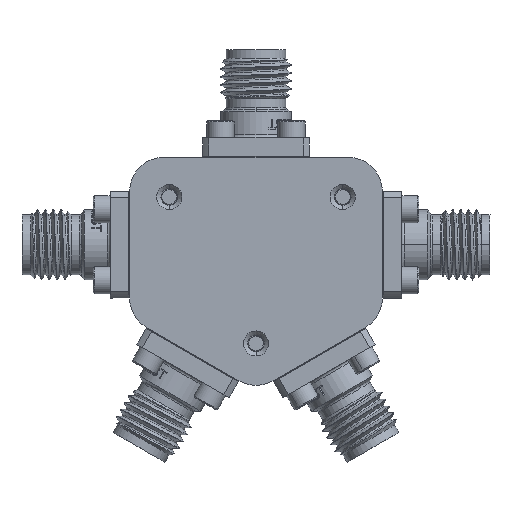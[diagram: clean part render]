
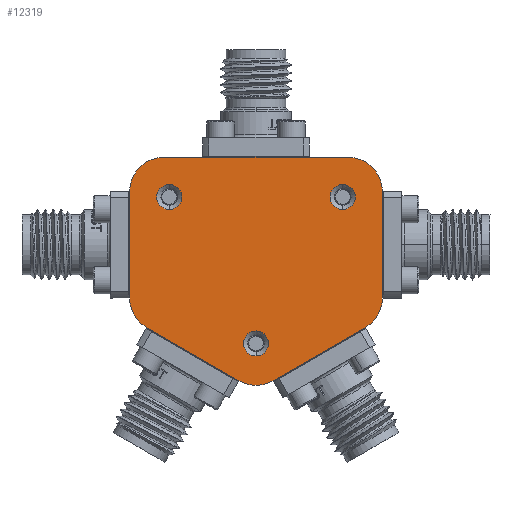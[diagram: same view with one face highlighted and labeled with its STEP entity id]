
A CAD part, front view. The second image highlights one B-rep face of the part: STEP entity #12319.
In plain terms, the highlighted planar face has unit normal (0, -1, 0).
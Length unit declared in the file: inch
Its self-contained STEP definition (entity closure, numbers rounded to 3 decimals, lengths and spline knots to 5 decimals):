
#31 = EDGE_CURVE ( 'NONE', #10421, #10014, #18289, .T. ) ;
#35 = EDGE_CURVE ( 'NONE', #12732, #3752, #16745, .T. ) ;
#143 = AXIS2_PLACEMENT_3D ( 'NONE', #19347, #8899, #5806 ) ;
#314 = CARTESIAN_POINT ( 'NONE',  ( -0.06, -0.4, -0.47892 ) ) ;
#544 = FACE_OUTER_BOUND ( 'NONE', #1737, .T. ) ;
#676 = EDGE_CURVE ( 'NONE', #2705, #2558, #6661, .T. ) ;
#707 = CARTESIAN_POINT ( 'NONE',  ( 0.30503, -0.4, 0.16777 ) ) ;
#1081 = VERTEX_POINT ( 'NONE', #17267 ) ;
#1102 = ORIENTED_EDGE ( 'NONE', *, *, #2012, .T. ) ;
#1326 = ORIENTED_EDGE ( 'NONE', *, *, #3777, .T. ) ;
#1498 = CIRCLE ( 'NONE', #3465, 0.044 ) ;
#1541 = CARTESIAN_POINT ( 'NONE',  ( 0.30503, -0.4, 0.12377 ) ) ;
#1737 = EDGE_LOOP ( 'NONE', ( #8080, #8539, #16183, #1858, #16801, #16610, #1749, #7445, #16155, #2863 ) ) ;
#1749 = ORIENTED_EDGE ( 'NONE', *, *, #6804, .F. ) ;
#1751 = DIRECTION ( 'NONE',  ( 0., 0., 1. ) ) ;
#1858 = ORIENTED_EDGE ( 'NONE', *, *, #10600, .F. ) ;
#2012 = EDGE_CURVE ( 'NONE', #10014, #10421, #9245, .T. ) ;
#2499 = DIRECTION ( 'NONE',  ( 0., 0., 1. ) ) ;
#2537 = DIRECTION ( 'NONE',  ( 0., 1., 0. ) ) ;
#2558 = VERTEX_POINT ( 'NONE', #3562 ) ;
#2613 = DIRECTION ( 'NONE',  ( 0., 1., 0. ) ) ;
#2705 = VERTEX_POINT ( 'NONE', #1541 ) ;
#2863 = ORIENTED_EDGE ( 'NONE', *, *, #4952, .F. ) ;
#2946 = EDGE_LOOP ( 'NONE', ( #1102, #19211 ) ) ;
#2961 = CARTESIAN_POINT ( 'NONE',  ( 0., -0.4, -0.375 ) ) ;
#3118 = EDGE_CURVE ( 'NONE', #3443, #17117, #8350, .T. ) ;
#3443 = VERTEX_POINT ( 'NONE', #5646 ) ;
#3465 = AXIS2_PLACEMENT_3D ( 'NONE', #10222, #4082, #2499 ) ;
#3545 = DIRECTION ( 'NONE',  ( 0., 1., 0. ) ) ;
#3562 = CARTESIAN_POINT ( 'NONE',  ( 0.30503, -0.4, 0.21177 ) ) ;
#3563 = CARTESIAN_POINT ( 'NONE',  ( 0.32453, -0.4, 0.3075 ) ) ;
#3674 = DIRECTION ( 'NONE',  ( 0., 1., 0. ) ) ;
#3752 = VERTEX_POINT ( 'NONE', #314 ) ;
#3777 = EDGE_CURVE ( 'NONE', #2558, #2705, #7137, .T. ) ;
#4082 = DIRECTION ( 'NONE',  ( 0., 1., 0. ) ) ;
#4136 = VERTEX_POINT ( 'NONE', #4753 ) ;
#4293 = CARTESIAN_POINT ( 'NONE',  ( -0.44476, -0.4, 0.18727 ) ) ;
#4627 = ORIENTED_EDGE ( 'NONE', *, *, #676, .T. ) ;
#4753 = CARTESIAN_POINT ( 'NONE',  ( -0.30503, -0.4, 0.21177 ) ) ;
#4952 = EDGE_CURVE ( 'NONE', #3752, #1081, #10925, .T. ) ;
#4982 = CIRCLE ( 'NONE', #7817, 0.044 ) ;
#5138 = FACE_BOUND ( 'NONE', #2946, .T. ) ;
#5372 = DIRECTION ( 'NONE',  ( 0., 0., 1. ) ) ;
#5373 = DIRECTION ( 'NONE',  ( 0., 1., 0. ) ) ;
#5392 = AXIS2_PLACEMENT_3D ( 'NONE', #12676, #3674, #9720 ) ;
#5577 = EDGE_CURVE ( 'NONE', #15290, #18165, #6659, .T. ) ;
#5646 = CARTESIAN_POINT ( 'NONE',  ( -0.44476, -0.4, -0.1875 ) ) ;
#5806 = DIRECTION ( 'NONE',  ( 0., 0., 1. ) ) ;
#5925 = EDGE_CURVE ( 'NONE', #12286, #16444, #14329, .T. ) ;
#6304 = DIRECTION ( 'NONE',  ( 0., 1., 0. ) ) ;
#6491 = CARTESIAN_POINT ( 'NONE',  ( -0.32453, -0.4, 0.3075 ) ) ;
#6659 = CIRCLE ( 'NONE', #17710, 0.12 ) ;
#6661 = CIRCLE ( 'NONE', #11741, 0.044 ) ;
#6804 = EDGE_CURVE ( 'NONE', #17117, #12219, #17188, .T. ) ;
#7137 = CIRCLE ( 'NONE', #13764, 0.044 ) ;
#7159 = CARTESIAN_POINT ( 'NONE',  ( 0.32476, -0.4, -0.1875 ) ) ;
#7352 = CARTESIAN_POINT ( 'NONE',  ( 0., -0.4, -0.3475 ) ) ;
#7445 = ORIENTED_EDGE ( 'NONE', *, *, #3118, .F. ) ;
#7556 = CARTESIAN_POINT ( 'NONE',  ( -0.06, -0.4, -0.47892 ) ) ;
#7600 = EDGE_CURVE ( 'NONE', #1081, #3443, #8704, .T. ) ;
#7803 = VECTOR ( 'NONE', #14328, 39.37008 ) ;
#7817 = AXIS2_PLACEMENT_3D ( 'NONE', #14453, #15950, #5372 ) ;
#7916 = VECTOR ( 'NONE', #14272, 39.37008 ) ;
#8024 = AXIS2_PLACEMENT_3D ( 'NONE', #10814, #10902, #12685 ) ;
#8050 = CARTESIAN_POINT ( 'NONE',  ( 0.30503, -0.4, 0.16777 ) ) ;
#8080 = ORIENTED_EDGE ( 'NONE', *, *, #35, .F. ) ;
#8108 = PLANE ( 'NONE',  #16074 ) ;
#8249 = AXIS2_PLACEMENT_3D ( 'NONE', #2961, #3545, #10488 ) ;
#8350 = LINE ( 'NONE', #13007, #7916 ) ;
#8539 = ORIENTED_EDGE ( 'NONE', *, *, #17736, .F. ) ;
#8576 = DIRECTION ( 'NONE',  ( 0., 0., 1. ) ) ;
#8645 = DIRECTION ( 'NONE',  ( 0., 0., 1. ) ) ;
#8704 = CIRCLE ( 'NONE', #143, 0.12 ) ;
#8784 = VECTOR ( 'NONE', #14082, 39.37008 ) ;
#8899 = DIRECTION ( 'NONE',  ( 0., 1., 0. ) ) ;
#9235 = LINE ( 'NONE', #15239, #7803 ) ;
#9245 = CIRCLE ( 'NONE', #14280, 0.044 ) ;
#9389 = VERTEX_POINT ( 'NONE', #16010 ) ;
#9431 = CARTESIAN_POINT ( 'NONE',  ( 0.44476, -0.4, 0.18727 ) ) ;
#9670 = CARTESIAN_POINT ( 'NONE',  ( 0.38476, -0.4, -0.29142 ) ) ;
#9720 = DIRECTION ( 'NONE',  ( 0., 0., 1. ) ) ;
#9735 = DIRECTION ( 'NONE',  ( 0., 0., 1. ) ) ;
#10014 = VERTEX_POINT ( 'NONE', #14598 ) ;
#10071 = CARTESIAN_POINT ( 'NONE',  ( 0.06, -0.4, -0.47892 ) ) ;
#10147 = VECTOR ( 'NONE', #12020, 39.37008 ) ;
#10222 = CARTESIAN_POINT ( 'NONE',  ( -0.30503, -0.4, 0.16777 ) ) ;
#10332 = DIRECTION ( 'NONE',  ( 0., 0., 1. ) ) ;
#10421 = VERTEX_POINT ( 'NONE', #17809 ) ;
#10488 = DIRECTION ( 'NONE',  ( 0., 0., 1. ) ) ;
#10600 = EDGE_CURVE ( 'NONE', #16444, #15290, #9235, .T. ) ;
#10814 = CARTESIAN_POINT ( 'NONE',  ( 0.32378, -0.4, 0.18653 ) ) ;
#10866 = DIRECTION ( 'NONE',  ( 1., 0., 0. ) ) ;
#10902 = DIRECTION ( 'NONE',  ( 0., 1., 0. ) ) ;
#10925 = LINE ( 'NONE', #7556, #10147 ) ;
#11367 = EDGE_LOOP ( 'NONE', ( #4627, #1326 ) ) ;
#11434 = ORIENTED_EDGE ( 'NONE', *, *, #16515, .T. ) ;
#11463 = CARTESIAN_POINT ( 'NONE',  ( -0.32378, -0.4, 0.18653 ) ) ;
#11741 = AXIS2_PLACEMENT_3D ( 'NONE', #8050, #5373, #9735 ) ;
#11868 = CARTESIAN_POINT ( 'NONE',  ( -0.32453, -0.4, 0.3075 ) ) ;
#12020 = DIRECTION ( 'NONE',  ( -0.866, 0., 0.5 ) ) ;
#12219 = VERTEX_POINT ( 'NONE', #11868 ) ;
#12286 = VERTEX_POINT ( 'NONE', #3563 ) ;
#12319 = ADVANCED_FACE ( 'NONE', ( #5138, #17179, #18350, #544 ), #8108, .F. ) ;
#12621 = LINE ( 'NONE', #9670, #8784 ) ;
#12676 = CARTESIAN_POINT ( 'NONE',  ( 0., -0.4, -0.3475 ) ) ;
#12685 = DIRECTION ( 'NONE',  ( 0., 0., 1. ) ) ;
#12732 = VERTEX_POINT ( 'NONE', #10071 ) ;
#13005 = CARTESIAN_POINT ( 'NONE',  ( 0.38476, -0.4, -0.29142 ) ) ;
#13007 = CARTESIAN_POINT ( 'NONE',  ( -0.44476, -0.4, -0.1875 ) ) ;
#13764 = AXIS2_PLACEMENT_3D ( 'NONE', #707, #2613, #8645 ) ;
#14082 = DIRECTION ( 'NONE',  ( -0.866, 0., -0.5 ) ) ;
#14116 = CARTESIAN_POINT ( 'NONE',  ( 0., -0.4, -0.375 ) ) ;
#14272 = DIRECTION ( 'NONE',  ( 0., 0., 1. ) ) ;
#14280 = AXIS2_PLACEMENT_3D ( 'NONE', #7352, #16622, #10332 ) ;
#14328 = DIRECTION ( 'NONE',  ( 0., 0., -1. ) ) ;
#14329 = CIRCLE ( 'NONE', #8024, 0.12098 ) ;
#14400 = DIRECTION ( 'NONE',  ( 0., 0., 1. ) ) ;
#14453 = CARTESIAN_POINT ( 'NONE',  ( -0.30503, -0.4, 0.16777 ) ) ;
#14598 = CARTESIAN_POINT ( 'NONE',  ( 0., -0.4, -0.3915 ) ) ;
#14884 = EDGE_CURVE ( 'NONE', #12219, #12286, #17171, .T. ) ;
#15239 = CARTESIAN_POINT ( 'NONE',  ( 0.44476, -0.4, 0.18727 ) ) ;
#15290 = VERTEX_POINT ( 'NONE', #16946 ) ;
#15950 = DIRECTION ( 'NONE',  ( 0., 1., 0. ) ) ;
#15955 = AXIS2_PLACEMENT_3D ( 'NONE', #11463, #19039, #14400 ) ;
#16010 = CARTESIAN_POINT ( 'NONE',  ( -0.30503, -0.4, 0.12377 ) ) ;
#16074 = AXIS2_PLACEMENT_3D ( 'NONE', #14116, #6304, #1751 ) ;
#16155 = ORIENTED_EDGE ( 'NONE', *, *, #7600, .F. ) ;
#16183 = ORIENTED_EDGE ( 'NONE', *, *, #5577, .F. ) ;
#16444 = VERTEX_POINT ( 'NONE', #9431 ) ;
#16515 = EDGE_CURVE ( 'NONE', #9389, #4136, #1498, .T. ) ;
#16541 = EDGE_CURVE ( 'NONE', #4136, #9389, #4982, .T. ) ;
#16578 = EDGE_LOOP ( 'NONE', ( #11434, #16729 ) ) ;
#16610 = ORIENTED_EDGE ( 'NONE', *, *, #14884, .F. ) ;
#16622 = DIRECTION ( 'NONE',  ( 0., 1., 0. ) ) ;
#16729 = ORIENTED_EDGE ( 'NONE', *, *, #16541, .T. ) ;
#16745 = CIRCLE ( 'NONE', #8249, 0.12 ) ;
#16801 = ORIENTED_EDGE ( 'NONE', *, *, #5925, .F. ) ;
#16946 = CARTESIAN_POINT ( 'NONE',  ( 0.44476, -0.4, -0.1875 ) ) ;
#16965 = VECTOR ( 'NONE', #10866, 39.37008 ) ;
#17117 = VERTEX_POINT ( 'NONE', #4293 ) ;
#17171 = LINE ( 'NONE', #6491, #16965 ) ;
#17179 = FACE_BOUND ( 'NONE', #11367, .T. ) ;
#17188 = CIRCLE ( 'NONE', #15955, 0.12098 ) ;
#17267 = CARTESIAN_POINT ( 'NONE',  ( -0.38476, -0.4, -0.29142 ) ) ;
#17710 = AXIS2_PLACEMENT_3D ( 'NONE', #7159, #2537, #8576 ) ;
#17736 = EDGE_CURVE ( 'NONE', #18165, #12732, #12621, .T. ) ;
#17809 = CARTESIAN_POINT ( 'NONE',  ( 0., -0.4, -0.3035 ) ) ;
#18165 = VERTEX_POINT ( 'NONE', #13005 ) ;
#18289 = CIRCLE ( 'NONE', #5392, 0.044 ) ;
#18350 = FACE_BOUND ( 'NONE', #16578, .T. ) ;
#19039 = DIRECTION ( 'NONE',  ( 0., 1., 0. ) ) ;
#19211 = ORIENTED_EDGE ( 'NONE', *, *, #31, .T. ) ;
#19347 = CARTESIAN_POINT ( 'NONE',  ( -0.32476, -0.4, -0.1875 ) ) ;
